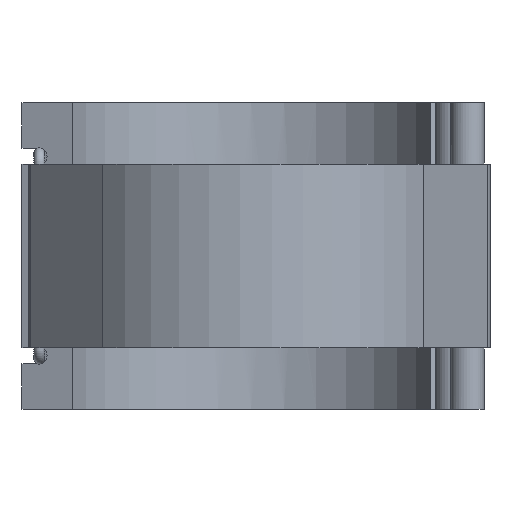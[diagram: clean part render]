
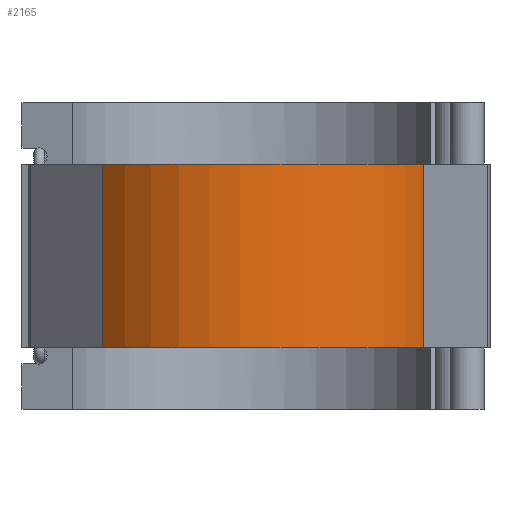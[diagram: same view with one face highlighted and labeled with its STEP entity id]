
A CAD part, front view. The second image highlights one B-rep face of the part: STEP entity #2165.
In plain terms, the highlighted cylindrical face has radius 112.63 mm (diameter 225.261 mm), a partial arc.
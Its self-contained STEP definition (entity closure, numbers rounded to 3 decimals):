
#242=LINE('',#3952,#422);
#243=LINE('',#3954,#423);
#422=VECTOR('',#2990,10.);
#423=VECTOR('',#2993,10.);
#463=CYLINDRICAL_SURFACE('',#2403,112.631);
#569=FACE_OUTER_BOUND('',#702,.T.);
#702=EDGE_LOOP('',(#1870,#1871,#1872,#1873));
#795=CIRCLE('',#2318,112.631);
#804=CIRCLE('',#2328,112.631);
#940=VERTEX_POINT('',#3670);
#941=VERTEX_POINT('',#3672);
#956=VERTEX_POINT('',#3704);
#957=VERTEX_POINT('',#3706);
#1188=EDGE_CURVE('',#940,#941,#795,.T.);
#1205=EDGE_CURVE('',#956,#957,#804,.T.);
#1325=EDGE_CURVE('',#940,#957,#242,.T.);
#1326=EDGE_CURVE('',#941,#956,#243,.T.);
#1870=ORIENTED_EDGE('',*,*,#1325,.T.);
#1871=ORIENTED_EDGE('',*,*,#1205,.F.);
#1872=ORIENTED_EDGE('',*,*,#1326,.F.);
#1873=ORIENTED_EDGE('',*,*,#1188,.F.);
#2165=ADVANCED_FACE('',(#569),#463,.T.);
#2318=AXIS2_PLACEMENT_3D('',#3673,#2731,#2732);
#2328=AXIS2_PLACEMENT_3D('',#3707,#2759,#2760);
#2403=AXIS2_PLACEMENT_3D('',#3953,#2991,#2992);
#2731=DIRECTION('center_axis',(0.,0.,-1.));
#2732=DIRECTION('ref_axis',(0.989,0.151,0.));
#2759=DIRECTION('center_axis',(0.,0.,1.));
#2760=DIRECTION('ref_axis',(0.989,0.151,0.));
#2990=DIRECTION('',(0.,0.,1.));
#2991=DIRECTION('center_axis',(0.,0.,1.));
#2992=DIRECTION('ref_axis',(0.989,0.151,0.));
#2993=DIRECTION('',(0.,0.,1.));
#3670=CARTESIAN_POINT('',(98.697,-54.264,-52.807));
#3672=CARTESIAN_POINT('',(-85.183,-73.685,-52.807));
#3673=CARTESIAN_POINT('Origin',(0.,0.,-52.807));
#3704=CARTESIAN_POINT('',(-85.183,-73.685,52.807));
#3706=CARTESIAN_POINT('',(98.697,-54.264,52.807));
#3707=CARTESIAN_POINT('Origin',(0.,0.,52.807));
#3952=CARTESIAN_POINT('',(98.697,-54.264,0.));
#3953=CARTESIAN_POINT('Origin',(0.,0.,0.));
#3954=CARTESIAN_POINT('',(-85.183,-73.685,0.));
